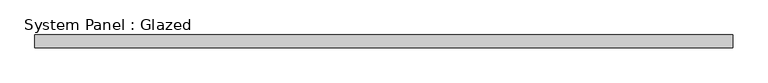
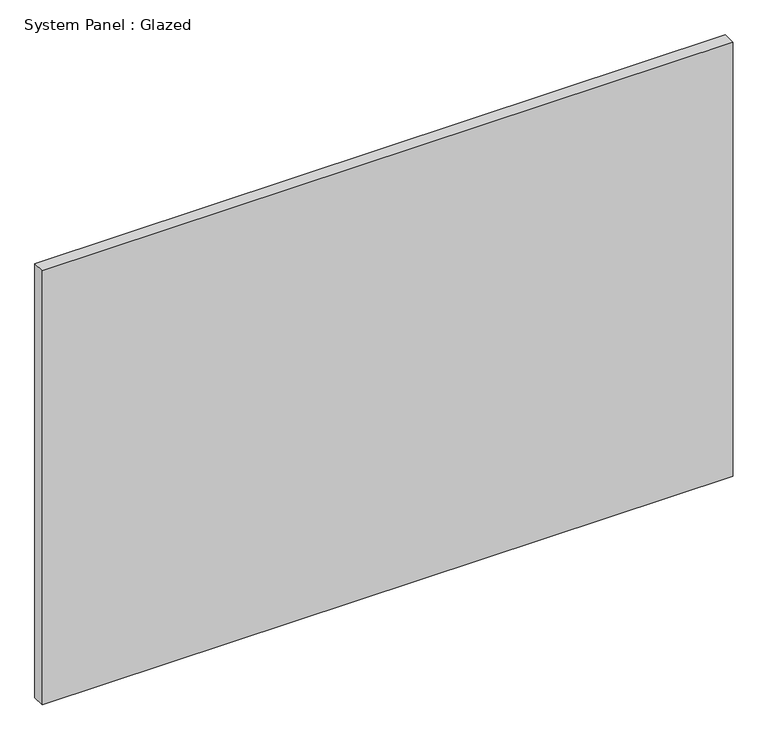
"""IFC4 building model written with IfcOpenShell, lengths in millimetres: plate geometry, System Panel : Glazed."""

from ifc_helpers import new_model, si_unit, origin, origin_with_axes, place, context, project, spatial, polyline, outline, extrude, source, transform, mapped, element, save


def system_panel_glazed_2ee17534(model_context):
    return source(origin(), model_context, "Body", "SweptSolid", [
        extrude(outline(polyline([(688.5886914, 19.05), (-688.5886914, 19.05), (-688.5886914, 44.45), (688.5886914, 44.45), (688.5886914, 19.05)])), origin_with_axes(), (0.0, 0.0, 1.0), 914.4),
    ])


if __name__ == "__main__":
    model = new_model("IFC4")
    model_context = context("Model", 3, world=origin())
    ifc_project = project(units=[si_unit("LENGTHUNIT", "METRE", prefix="MILLI")], contexts=[model_context])
    site = spatial("IfcSite", under=ifc_project)
    building = spatial("IfcBuilding", under=site)
    placement = place(None, origin())
    system_panel_glazed_shape = system_panel_glazed_2ee17534(model_context)
    element("IfcPlate", 1, ObjectType="System Panel : Glazed", at=placement, inside=building, context=model_context, shape_type="MappedRepresentation", body=[
        mapped(system_panel_glazed_shape, transform((0.0, 0.0, 0.0), x_axis=(1.0, 0.0, 0.0), y_axis=(0.0, 1.0, 0.0), z_axis=(0.0, 0.0, 1.0))),
    ])
    save(model, "model.ifc")
